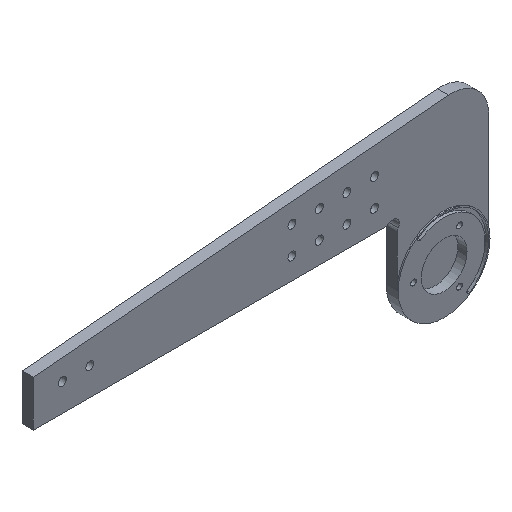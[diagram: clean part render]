
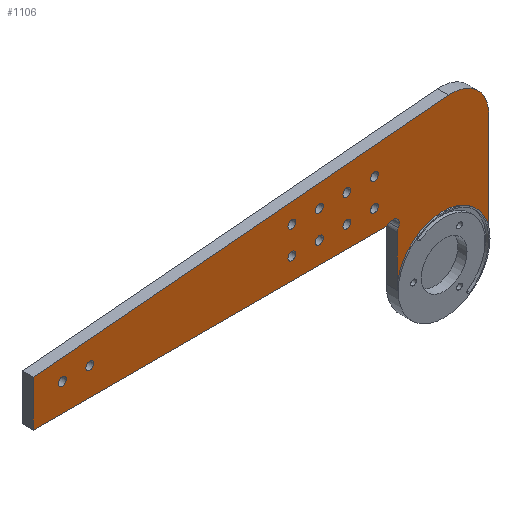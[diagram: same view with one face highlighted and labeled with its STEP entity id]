
A CAD part, isometric view. The second image highlights one B-rep face of the part: STEP entity #1106.
In plain terms, the highlighted planar face has unit normal (0, -1, 0).
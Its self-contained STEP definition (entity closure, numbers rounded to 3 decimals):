
#98=FACE_BOUND('',#457,.T.);
#99=FACE_BOUND('',#458,.T.);
#100=FACE_BOUND('',#459,.T.);
#101=FACE_BOUND('',#460,.T.);
#102=FACE_BOUND('',#461,.T.);
#103=FACE_BOUND('',#462,.T.);
#104=FACE_BOUND('',#463,.T.);
#105=FACE_BOUND('',#464,.T.);
#106=FACE_BOUND('',#465,.T.);
#107=FACE_BOUND('',#466,.T.);
#124=CIRCLE('',#1140,6.5);
#126=CIRCLE('',#1143,6.5);
#128=CIRCLE('',#1146,6.5);
#130=CIRCLE('',#1149,6.5);
#132=CIRCLE('',#1152,6.5);
#134=CIRCLE('',#1155,6.5);
#136=CIRCLE('',#1158,6.5);
#138=CIRCLE('',#1161,6.5);
#140=CIRCLE('',#1164,6.5);
#142=CIRCLE('',#1167,6.5);
#182=CIRCLE('',#1246,10.);
#185=CIRCLE('',#1250,10.);
#192=CIRCLE('',#1259,10.);
#193=CIRCLE('',#1262,75.);
#194=CIRCLE('',#1263,60.);
#314=FACE_OUTER_BOUND('',#456,.T.);
#456=EDGE_LOOP('',(#949,#950,#951,#952,#953,#954,#955,#956,#957,#958));
#457=EDGE_LOOP('',(#959));
#458=EDGE_LOOP('',(#960));
#459=EDGE_LOOP('',(#961));
#460=EDGE_LOOP('',(#962));
#461=EDGE_LOOP('',(#963));
#462=EDGE_LOOP('',(#964));
#463=EDGE_LOOP('',(#965));
#464=EDGE_LOOP('',(#966));
#465=EDGE_LOOP('',(#967));
#466=EDGE_LOOP('',(#968));
#511=LINE('',#1906,#543);
#513=LINE('',#1910,#545);
#514=LINE('',#1914,#546);
#515=LINE('',#1918,#547);
#516=LINE('',#1919,#548);
#543=VECTOR('',#1584,577.637);
#545=VECTOR('',#1588,82.137);
#546=VECTOR('',#1591,174.744);
#547=VECTOR('',#1594,682.869);
#548=VECTOR('',#1595,75.);
#568=VERTEX_POINT('',#1700);
#570=VERTEX_POINT('',#1705);
#572=VERTEX_POINT('',#1710);
#574=VERTEX_POINT('',#1715);
#576=VERTEX_POINT('',#1720);
#578=VERTEX_POINT('',#1725);
#580=VERTEX_POINT('',#1730);
#582=VERTEX_POINT('',#1735);
#584=VERTEX_POINT('',#1740);
#586=VERTEX_POINT('',#1745);
#626=VERTEX_POINT('',#1864);
#627=VERTEX_POINT('',#1865);
#631=VERTEX_POINT('',#1875);
#642=VERTEX_POINT('',#1901);
#643=VERTEX_POINT('',#1905);
#644=VERTEX_POINT('',#1909);
#645=VERTEX_POINT('',#1911);
#646=VERTEX_POINT('',#1913);
#647=VERTEX_POINT('',#1915);
#648=VERTEX_POINT('',#1917);
#677=EDGE_CURVE('',#568,#568,#124,.T.);
#679=EDGE_CURVE('',#570,#570,#126,.T.);
#681=EDGE_CURVE('',#572,#572,#128,.T.);
#683=EDGE_CURVE('',#574,#574,#130,.T.);
#685=EDGE_CURVE('',#576,#576,#132,.T.);
#687=EDGE_CURVE('',#578,#578,#134,.T.);
#689=EDGE_CURVE('',#580,#580,#136,.T.);
#691=EDGE_CURVE('',#582,#582,#138,.T.);
#693=EDGE_CURVE('',#584,#584,#140,.T.);
#695=EDGE_CURVE('',#586,#586,#142,.T.);
#735=EDGE_CURVE('',#626,#627,#182,.T.);
#741=EDGE_CURVE('',#626,#631,#185,.T.);
#754=EDGE_CURVE('',#642,#631,#192,.T.);
#755=EDGE_CURVE('',#627,#643,#511,.T.);
#757=EDGE_CURVE('',#644,#642,#513,.T.);
#758=EDGE_CURVE('',#645,#644,#193,.T.);
#759=EDGE_CURVE('',#646,#645,#514,.T.);
#760=EDGE_CURVE('',#647,#646,#194,.T.);
#761=EDGE_CURVE('',#648,#647,#515,.T.);
#762=EDGE_CURVE('',#643,#648,#516,.T.);
#949=ORIENTED_EDGE('',*,*,#735,.F.);
#950=ORIENTED_EDGE('',*,*,#741,.T.);
#951=ORIENTED_EDGE('',*,*,#754,.F.);
#952=ORIENTED_EDGE('',*,*,#757,.F.);
#953=ORIENTED_EDGE('',*,*,#758,.F.);
#954=ORIENTED_EDGE('',*,*,#759,.F.);
#955=ORIENTED_EDGE('',*,*,#760,.F.);
#956=ORIENTED_EDGE('',*,*,#761,.F.);
#957=ORIENTED_EDGE('',*,*,#762,.F.);
#958=ORIENTED_EDGE('',*,*,#755,.F.);
#959=ORIENTED_EDGE('',*,*,#677,.T.);
#960=ORIENTED_EDGE('',*,*,#679,.T.);
#961=ORIENTED_EDGE('',*,*,#681,.T.);
#962=ORIENTED_EDGE('',*,*,#683,.T.);
#963=ORIENTED_EDGE('',*,*,#685,.T.);
#964=ORIENTED_EDGE('',*,*,#687,.T.);
#965=ORIENTED_EDGE('',*,*,#689,.T.);
#966=ORIENTED_EDGE('',*,*,#691,.T.);
#967=ORIENTED_EDGE('',*,*,#693,.T.);
#968=ORIENTED_EDGE('',*,*,#695,.T.);
#1038=PLANE('',#1261);
#1106=ADVANCED_FACE('',(#314,#98,#99,#100,#101,#102,#103,#104,#105,#106,
#107),#1038,.T.);
#1140=AXIS2_PLACEMENT_3D('',#1701,#1333,#1334);
#1143=AXIS2_PLACEMENT_3D('',#1706,#1339,#1340);
#1146=AXIS2_PLACEMENT_3D('',#1711,#1345,#1346);
#1149=AXIS2_PLACEMENT_3D('',#1716,#1351,#1352);
#1152=AXIS2_PLACEMENT_3D('',#1721,#1357,#1358);
#1155=AXIS2_PLACEMENT_3D('',#1726,#1363,#1364);
#1158=AXIS2_PLACEMENT_3D('',#1731,#1369,#1370);
#1161=AXIS2_PLACEMENT_3D('',#1736,#1375,#1376);
#1164=AXIS2_PLACEMENT_3D('',#1741,#1381,#1382);
#1167=AXIS2_PLACEMENT_3D('',#1746,#1387,#1388);
#1246=AXIS2_PLACEMENT_3D('',#1866,#1545,#1546);
#1250=AXIS2_PLACEMENT_3D('',#1877,#1556,#1557);
#1259=AXIS2_PLACEMENT_3D('',#1903,#1580,#1581);
#1261=AXIS2_PLACEMENT_3D('',#1908,#1586,#1587);
#1262=AXIS2_PLACEMENT_3D('',#1912,#1589,#1590);
#1263=AXIS2_PLACEMENT_3D('',#1916,#1592,#1593);
#1333=DIRECTION('center_axis',(0.,1.,0.));
#1334=DIRECTION('ref_axis',(1.,0.,0.));
#1339=DIRECTION('center_axis',(0.,1.,0.));
#1340=DIRECTION('ref_axis',(1.,0.,0.));
#1345=DIRECTION('center_axis',(0.,1.,0.));
#1346=DIRECTION('ref_axis',(1.,0.,0.));
#1351=DIRECTION('center_axis',(0.,1.,0.));
#1352=DIRECTION('ref_axis',(1.,0.,0.));
#1357=DIRECTION('center_axis',(0.,1.,0.));
#1358=DIRECTION('ref_axis',(1.,0.,0.));
#1363=DIRECTION('center_axis',(0.,1.,0.));
#1364=DIRECTION('ref_axis',(1.,0.,0.));
#1369=DIRECTION('center_axis',(0.,1.,0.));
#1370=DIRECTION('ref_axis',(1.,0.,0.));
#1375=DIRECTION('center_axis',(0.,1.,0.));
#1376=DIRECTION('ref_axis',(1.,0.,0.));
#1381=DIRECTION('center_axis',(0.,1.,0.));
#1382=DIRECTION('ref_axis',(1.,0.,0.));
#1387=DIRECTION('center_axis',(0.,1.,0.));
#1388=DIRECTION('ref_axis',(1.,0.,0.));
#1545=DIRECTION('center_axis',(0.,1.,0.));
#1546=DIRECTION('ref_axis',(0.301,0.,-0.953));
#1556=DIRECTION('center_axis',(0.,1.,0.));
#1557=DIRECTION('ref_axis',(-1.,0.,0.));
#1580=DIRECTION('center_axis',(0.,1.,0.));
#1581=DIRECTION('ref_axis',(-0.953,0.,0.301));
#1584=DIRECTION('',(-1.,0.,0.));
#1586=DIRECTION('center_axis',(0.,-1.,0.));
#1587=DIRECTION('ref_axis',(0.,0.,-1.));
#1588=DIRECTION('',(0.,0.,1.));
#1589=DIRECTION('center_axis',(0.,-1.,0.));
#1590=DIRECTION('ref_axis',(-1.,0.,0.));
#1591=DIRECTION('',(0.,0.,-1.));
#1592=DIRECTION('center_axis',(0.,1.,0.));
#1593=DIRECTION('ref_axis',(0.676,0.,0.737));
#1594=DIRECTION('',(0.996,0.,0.087));
#1595=DIRECTION('',(0.,0.,1.));
#1700=CARTESIAN_POINT('',(-629.,2.,145.));
#1701=CARTESIAN_POINT('Origin',(-622.5,2.,145.));
#1705=CARTESIAN_POINT('',(-584.,2.,145.));
#1706=CARTESIAN_POINT('Origin',(-577.5,2.,145.));
#1710=CARTESIAN_POINT('',(-118.5,2.,135.));
#1711=CARTESIAN_POINT('Origin',(-112.,2.,135.));
#1715=CARTESIAN_POINT('',(-253.5,2.,135.));
#1716=CARTESIAN_POINT('Origin',(-247.,2.,135.));
#1720=CARTESIAN_POINT('',(-163.5,2.,135.));
#1721=CARTESIAN_POINT('Origin',(-157.,2.,135.));
#1725=CARTESIAN_POINT('',(-208.5,2.,135.));
#1726=CARTESIAN_POINT('Origin',(-202.,2.,135.));
#1730=CARTESIAN_POINT('',(-208.5,2.,180.));
#1731=CARTESIAN_POINT('Origin',(-202.,2.,180.));
#1735=CARTESIAN_POINT('',(-163.5,2.,180.));
#1736=CARTESIAN_POINT('Origin',(-157.,2.,180.));
#1740=CARTESIAN_POINT('',(-253.5,2.,180.));
#1741=CARTESIAN_POINT('Origin',(-247.,2.,180.));
#1745=CARTESIAN_POINT('',(-118.5,2.,180.));
#1746=CARTESIAN_POINT('Origin',(-112.,2.,180.));
#1864=CARTESIAN_POINT('',(-87.113,2.,101.818));
#1865=CARTESIAN_POINT('',(-92.863,2.,100.));
#1866=CARTESIAN_POINT('Origin',(-92.863,2.,110.));
#1875=CARTESIAN_POINT('',(-73.182,2.,87.887));
#1877=CARTESIAN_POINT('Origin',(-81.364,2.,93.636));
#1901=CARTESIAN_POINT('',(-75.,2.,82.137));
#1903=CARTESIAN_POINT('Origin',(-65.,2.,82.137));
#1905=CARTESIAN_POINT('',(-670.5,2.,100.));
#1906=CARTESIAN_POINT('',(-162.66,2.,100.));
#1908=CARTESIAN_POINT('Origin',(-250.319,2.,129.479));
#1909=CARTESIAN_POINT('',(-75.,2.,0.));
#1910=CARTESIAN_POINT('',(-75.,2.,64.74));
#1911=CARTESIAN_POINT('',(75.,2.,0.));
#1912=CARTESIAN_POINT('Origin',(0.,2.,0.));
#1913=CARTESIAN_POINT('',(75.,2.,174.744));
#1914=CARTESIAN_POINT('',(75.,2.,184.851));
#1915=CARTESIAN_POINT('',(9.771,2.,234.516));
#1916=CARTESIAN_POINT('Origin',(15.,2.,174.744));
#1917=CARTESIAN_POINT('',(-670.5,2.,175.));
#1918=CARTESIAN_POINT('',(-463.982,2.,193.068));
#1919=CARTESIAN_POINT('',(-670.5,2.,114.74));
